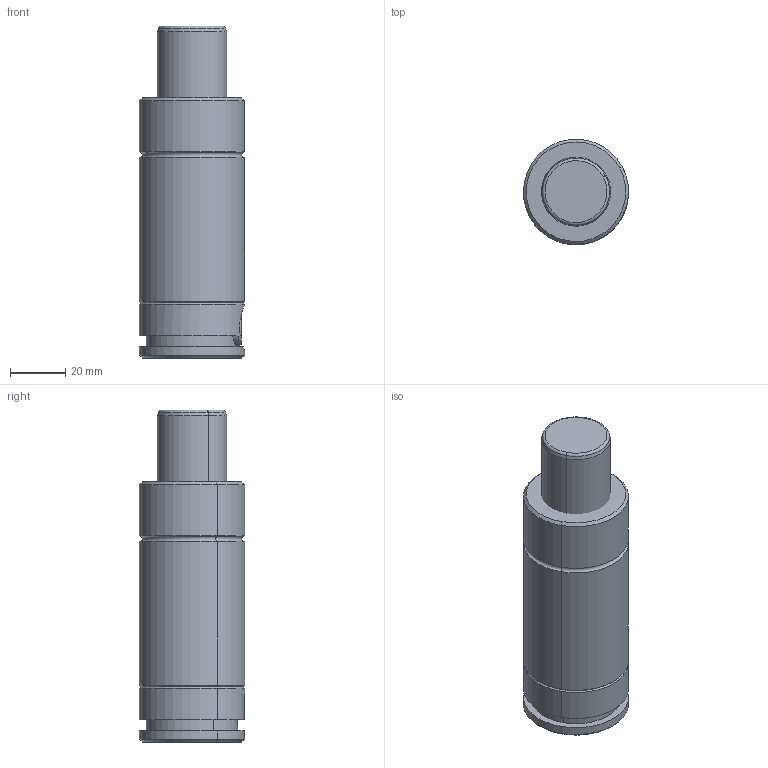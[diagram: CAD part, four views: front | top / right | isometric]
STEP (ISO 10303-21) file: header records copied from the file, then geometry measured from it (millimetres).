
FILE_DESCRIPTION(('CATIA V5 STEP Exchange'),'2;1');
FILE_NAME('W:\CATALOGO GENERAL 2018\FICHEROS CAD\003-TPH\TPH 850C\TPH 850x25C.stp','2017-10-30T10:31:30+00:00',('none'),('none'),'CATIA Version 5 Release 17 (IN-10)','CATIA V5 STEP AP203','none');
FILE_SCHEMA(('CONFIG_CONTROL_DESIGN'));
Length unit declared in the file: millimetre
Products named in the file (1): TPH 850x25C
Assembly tree (4 placements, depth 2):
  TPH 850x25C
    #56
    #969
    #1402
    #1744
Bounding box: 37.99 x 37.99 x 120 mm (x, y, z)
Volume: 149767.8 mm3; surface area: 26182.1 mm2
Topology: 4 solids, 4 shells, 139 faces, 294 edges, 176 vertices
Faces by surface type: cone 44, torus 36, cylinder 33, plane 26
Entity records: 3483 total; most frequent: CARTESIAN_POINT 646, ORIENTED_EDGE 572, DIRECTION 478, AXIS2_PLACEMENT_3D 287, EDGE_CURVE 286, CIRCLE 188, VERTEX_POINT 164, EDGE_LOOP 148
